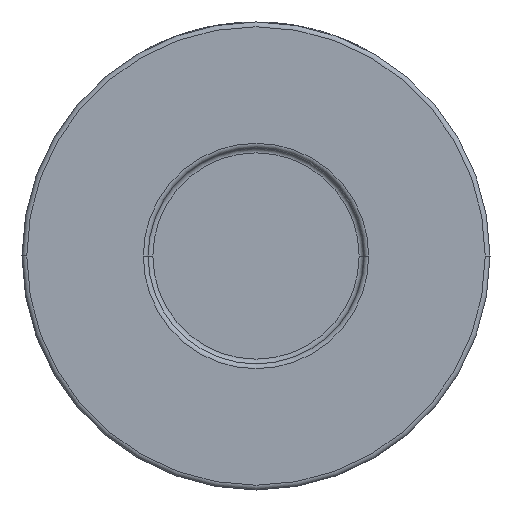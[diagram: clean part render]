
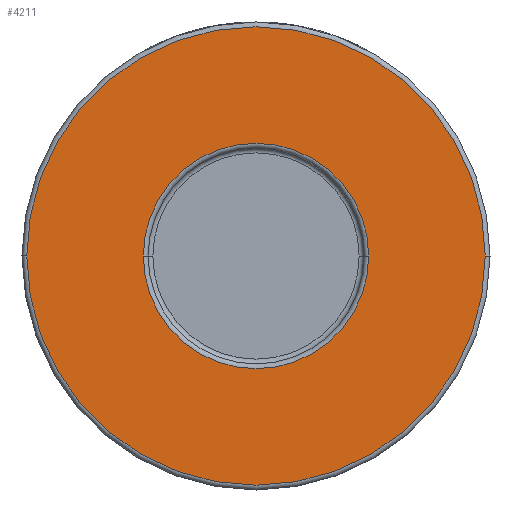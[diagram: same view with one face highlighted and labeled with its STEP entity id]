
A CAD part, front view. The second image highlights one B-rep face of the part: STEP entity #4211.
In plain terms, the highlighted planar face has unit normal (0, -1, 0).
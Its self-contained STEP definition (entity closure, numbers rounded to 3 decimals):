
#108 = VERTEX_POINT ( 'NONE', #948 ) ;
#242 = DIRECTION ( 'NONE',  ( 0., -1., 0. ) ) ;
#388 = ORIENTED_EDGE ( 'NONE', *, *, #1172, .T. ) ;
#509 = CIRCLE ( 'NONE', #4277, 48. ) ;
#735 = AXIS2_PLACEMENT_3D ( 'NONE', #3608, #1113, #4640 ) ;
#742 = DIRECTION ( 'NONE',  ( 1., 0., 0. ) ) ;
#792 = FACE_BOUND ( 'NONE', #2852, .T. ) ;
#837 = EDGE_CURVE ( 'NONE', #945, #108, #509, .T. ) ;
#945 = VERTEX_POINT ( 'NONE', #3476 ) ;
#948 = CARTESIAN_POINT ( 'NONE',  ( 48., -32., 0. ) ) ;
#967 = VERTEX_POINT ( 'NONE', #3856 ) ;
#1071 = DIRECTION ( 'NONE',  ( 0., 1., 0. ) ) ;
#1113 = DIRECTION ( 'NONE',  ( 0., -1., 0. ) ) ;
#1172 = EDGE_CURVE ( 'NONE', #108, #945, #3903, .T. ) ;
#1180 = FACE_OUTER_BOUND ( 'NONE', #2385, .T. ) ;
#1183 = CARTESIAN_POINT ( 'NONE',  ( 0., -32., 0. ) ) ;
#1189 = VERTEX_POINT ( 'NONE', #3583 ) ;
#1458 = CIRCLE ( 'NONE', #3107, 23.6 ) ;
#1564 = AXIS2_PLACEMENT_3D ( 'NONE', #2457, #1071, #742 ) ;
#1573 = CARTESIAN_POINT ( 'NONE',  ( 49., -32., 0. ) ) ;
#1613 = ORIENTED_EDGE ( 'NONE', *, *, #4635, .T. ) ;
#1827 = DIRECTION ( 'NONE',  ( 0., 1., 0. ) ) ;
#1837 = AXIS2_PLACEMENT_3D ( 'NONE', #1573, #2630, #2939 ) ;
#2085 = CIRCLE ( 'NONE', #1564, 23.6 ) ;
#2298 = PLANE ( 'NONE',  #1837 ) ;
#2363 = ORIENTED_EDGE ( 'NONE', *, *, #3289, .T. ) ;
#2385 = EDGE_LOOP ( 'NONE', ( #388, #3426 ) ) ;
#2457 = CARTESIAN_POINT ( 'NONE',  ( 0., -32., 0. ) ) ;
#2630 = DIRECTION ( 'NONE',  ( 0., -1., 0. ) ) ;
#2852 = EDGE_LOOP ( 'NONE', ( #1613, #2363 ) ) ;
#2939 = DIRECTION ( 'NONE',  ( 1., 0., 0. ) ) ;
#3107 = AXIS2_PLACEMENT_3D ( 'NONE', #3213, #1827, #3264 ) ;
#3213 = CARTESIAN_POINT ( 'NONE',  ( 0., -32., 0. ) ) ;
#3264 = DIRECTION ( 'NONE',  ( 1., 0., 0. ) ) ;
#3289 = EDGE_CURVE ( 'NONE', #967, #1189, #1458, .T. ) ;
#3426 = ORIENTED_EDGE ( 'NONE', *, *, #837, .T. ) ;
#3476 = CARTESIAN_POINT ( 'NONE',  ( -48., -32., 0. ) ) ;
#3583 = CARTESIAN_POINT ( 'NONE',  ( 23.6, -32., 0. ) ) ;
#3608 = CARTESIAN_POINT ( 'NONE',  ( 0., -32., 0. ) ) ;
#3835 = DIRECTION ( 'NONE',  ( 1., 0., 0. ) ) ;
#3856 = CARTESIAN_POINT ( 'NONE',  ( -23.6, -32., 0. ) ) ;
#3903 = CIRCLE ( 'NONE', #735, 48. ) ;
#4211 = ADVANCED_FACE ( 'NONE', ( #792, #1180 ), #2298, .T. ) ;
#4277 = AXIS2_PLACEMENT_3D ( 'NONE', #1183, #242, #3835 ) ;
#4635 = EDGE_CURVE ( 'NONE', #1189, #967, #2085, .T. ) ;
#4640 = DIRECTION ( 'NONE',  ( 1., 0., 0. ) ) ;
